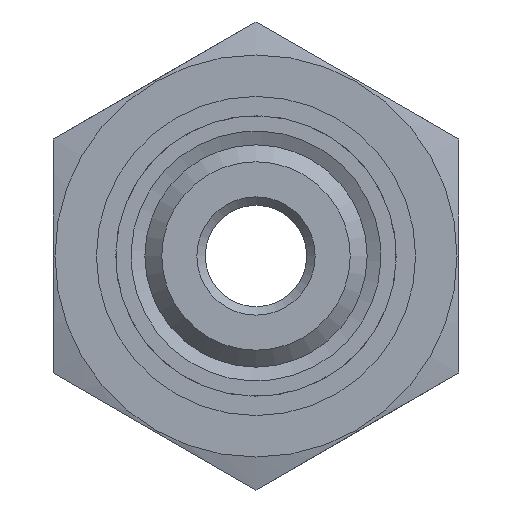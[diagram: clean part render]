
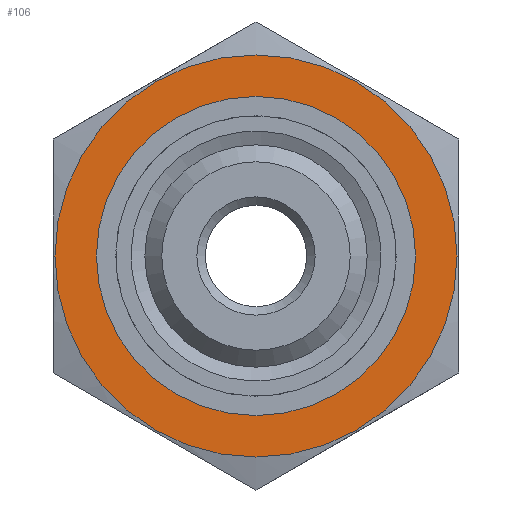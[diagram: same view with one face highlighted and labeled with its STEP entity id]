
A CAD part, left-side view. The second image highlights one B-rep face of the part: STEP entity #106.
In plain terms, the highlighted planar face has unit normal (-1, 0, 0).
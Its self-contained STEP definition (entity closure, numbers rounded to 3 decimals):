
#106 = ADVANCED_FACE( '', ( #219, #220 ), #221, .F. );
#219 = FACE_BOUND( '', #379, .T. );
#220 = FACE_OUTER_BOUND( '', #380, .T. );
#221 = PLANE( '', #381 );
#379 = EDGE_LOOP( '', ( #532 ) );
#380 = EDGE_LOOP( '', ( #533 ) );
#381 = AXIS2_PLACEMENT_3D( '', #534, #535, #536 );
#532 = ORIENTED_EDGE( '', *, *, #780, .F. );
#533 = ORIENTED_EDGE( '', *, *, #781, .T. );
#534 = CARTESIAN_POINT( '', ( -18.5, 0., 11.906 ) );
#535 = DIRECTION( '', ( 1., 0., 0. ) );
#536 = DIRECTION( '', ( 0., 0., -1. ) );
#780 = EDGE_CURVE( '', #871, #871, #872, .T. );
#781 = EDGE_CURVE( '', #873, #873, #874, .T. );
#871 = VERTEX_POINT( '', #1021 );
#872 = CIRCLE( '', #1022, 9.45 );
#873 = VERTEX_POINT( '', #1023 );
#874 = CIRCLE( '', #1024, 11.906 );
#1021 = CARTESIAN_POINT( '', ( -18.5, 0., 9.45 ) );
#1022 = AXIS2_PLACEMENT_3D( '', #1229, #1230, #1231 );
#1023 = CARTESIAN_POINT( '', ( -18.5, 0., 11.906 ) );
#1024 = AXIS2_PLACEMENT_3D( '', #1232, #1233, #1234 );
#1229 = CARTESIAN_POINT( '', ( -18.5, 0., 0. ) );
#1230 = DIRECTION( '', ( -1., 0., 0. ) );
#1231 = DIRECTION( '', ( 0., 0., 1. ) );
#1232 = CARTESIAN_POINT( '', ( -18.5, 0., 0. ) );
#1233 = DIRECTION( '', ( -1., 0., 0. ) );
#1234 = DIRECTION( '', ( 0., 0., 1. ) );
